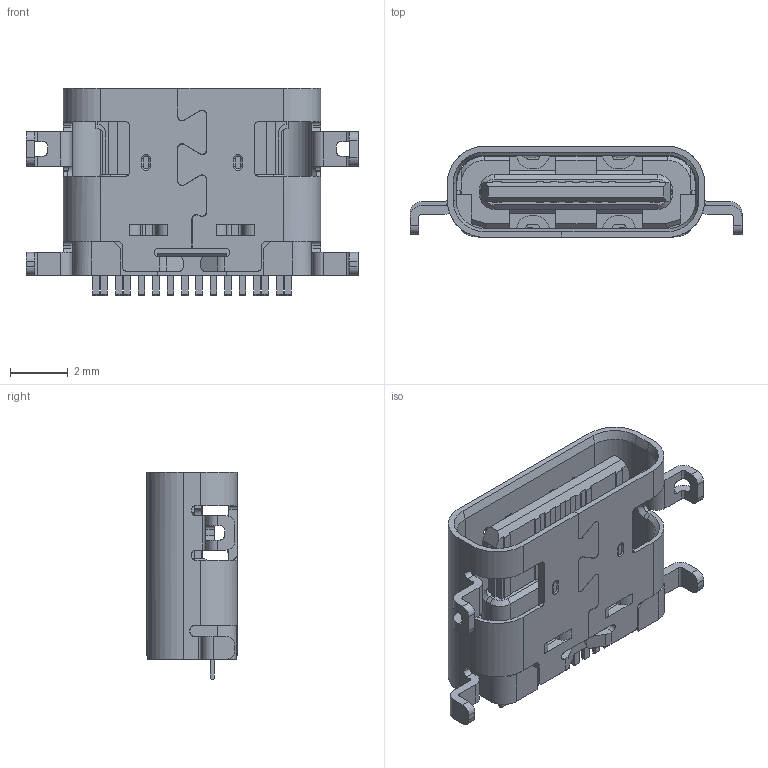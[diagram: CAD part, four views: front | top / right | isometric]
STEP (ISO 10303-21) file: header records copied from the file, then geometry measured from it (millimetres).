
FILE_DESCRIPTION((''),'2;1');
FILE_NAME('MCCFT-Z1K1_A0_','2025-08-15T',('PMT1 SFT'),(''),'PRO/ENGINEER BY PARAMETRIC TECHNOLOGY CORPORATION, 2011490','PRO/ENGINEER BY PARAMETRIC TECHNOLOGY CORPORATION, 2011490','');
FILE_SCHEMA(('CONFIG_CONTROL_DESIGN'));
Length unit declared in the file: millimetre
Products named in the file (1): MCCFT-Z1K1_A0_
Bounding box: 11.54 x 3.16 x 7.2 mm (x, y, z)
Volume: 95.4 mm3; surface area: 440.1 mm2
Topology: 1 solids, 1 shells, 741 faces, 2134 edges, 1392 vertices
Faces by surface type: plane 507, cylinder 203, cone 15, bspline 12, torus 4
Entity records: 24559 total; most frequent: CARTESIAN_POINT 4752, ORIENTED_EDGE 4268, DIRECTION 3980, EDGE_CURVE 2134, VECTOR 1666, LINE 1666, VERTEX_POINT 1392, AXIS2_PLACEMENT_3D 1157
